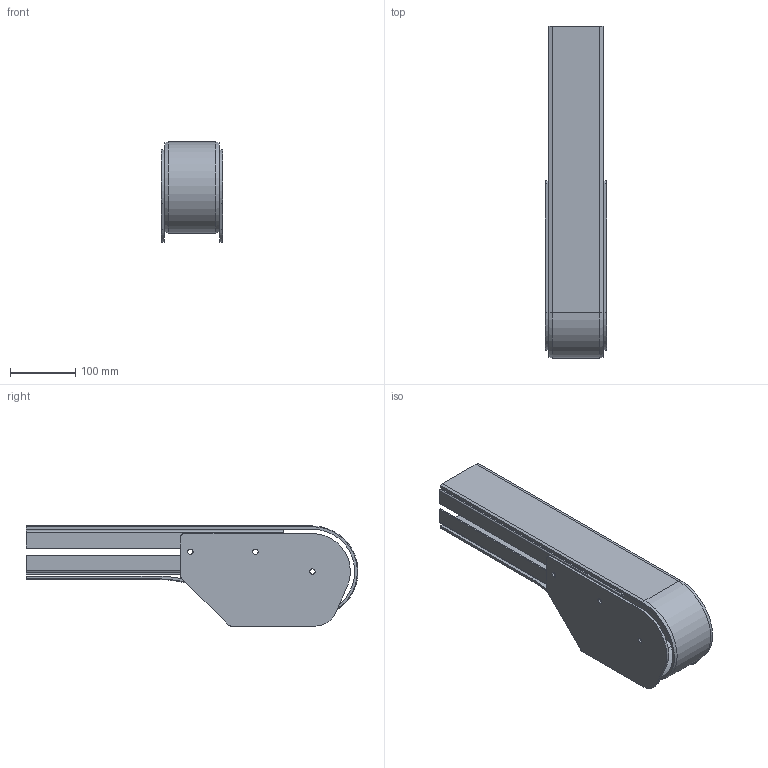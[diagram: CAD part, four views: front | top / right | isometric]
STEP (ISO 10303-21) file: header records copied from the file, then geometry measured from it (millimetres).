
FILE_DESCRIPTION((''),'2;1');
FILE_NAME('C:\Vault Klient\Projekt\Koncept konstruktion\Serie 530 Vändenhet\530-4000.stp','2010-12-09T10:53:47',('Mathias'),(''),'Autodesk Inventor 2011','Autodesk Inventor 2011','');
FILE_SCHEMA(('AUTOMOTIVE_DESIGN { 1 0 10303 214 1 1 1 1 }'));
Length unit declared in the file: millimetre
Products named in the file (5): Serie 530 Vändende; 530-1000; 830-2000; 530-4500H; 530-4500V
Assembly tree (4 placements, depth 2):
  Serie 530 Vändende
    530-1000
    830-2000
    530-4500H
    530-4500V
Bounding box: 94 x 509.96 x 153.7 mm (x, y, z)
Volume: 956202.5 mm3; surface area: 529926.8 mm2
Topology: 7 solids, 7 shells, 130 faces, 342 edges, 226 vertices
Faces by surface type: plane 98, cylinder 28, cone 4
Full cylindrical faces by diameter (mm): 8.2 x6
Entity records: 4127 total; most frequent: CARTESIAN_POINT 701, DIRECTION 674, ORIENTED_EDGE 672, EDGE_CURVE 336, VECTOR 276, LINE 276, VERTEX_POINT 226, AXIS2_PLACEMENT_3D 199
